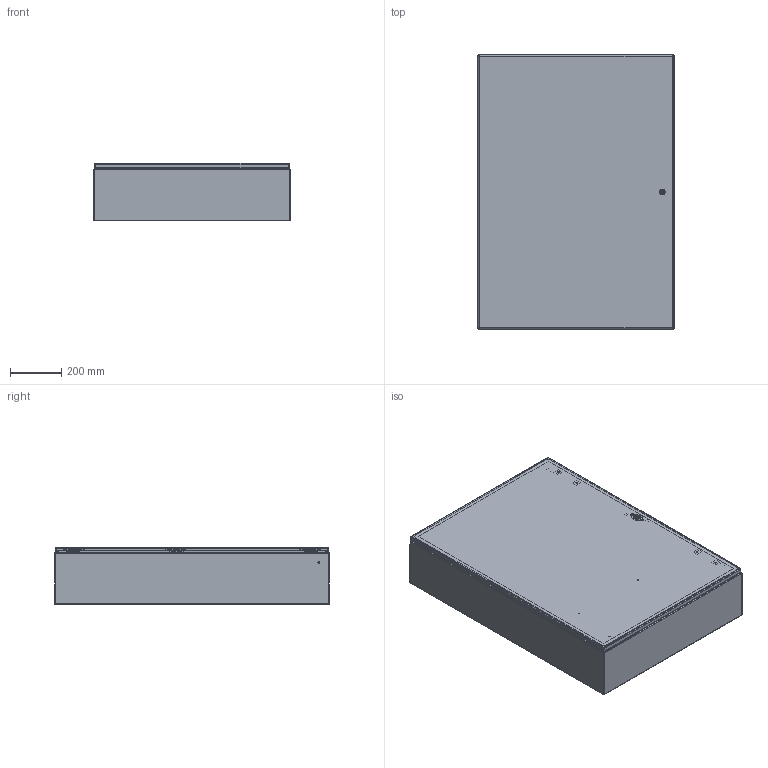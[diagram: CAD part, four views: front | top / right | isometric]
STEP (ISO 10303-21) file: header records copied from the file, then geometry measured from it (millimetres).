
FILE_DESCRIPTION (( 'STEP AP203' ), '1' );
FILE_NAME ('29423.step', '2015-03-30T06:26:49', ( '' ), ( '' ), 'SwSTEP 2.0', 'SolidWorks 2010', '' );
FILE_SCHEMA (( 'CONFIG_CONTROL_DESIGN' ));
Length unit declared in the file: inch
Products named in the file (32): 29423; 89117078; 89117077_default; 89117076_default; 89117075_default; 23271001_After Weld; 89117081_assy; 89117080_weldment; 89117079; 99401225; 87931362_87931362; 87408407_Unlocked; 64102001_Latch Open; 87540678; 64210001; 64202001; 64208001; 64205001; 87541995; 87541994_Installed Height; 64206004; 64207001; 64103001; 99411834; 89117082; 87543027; 89076399; 89076193; 89056623; 87929507; 87929767; 87929769_Installed on Pin
Assembly tree (51 placements, depth 5):
  29423
    87543027  x3
    89117078
      89117077_default
      23271001_After Weld  x6
      99401225
      89117075_default
      89117076_default
    89076399  x3
      89056623
      89076193
    87929507  x3
      87929769_Installed on Pin
      87929767
    89117081_assy
      87408407_Unlocked
        64206004  x2
        64102001_Latch Open
          64208001
          64210001
          64202001
          87540678
          87541994_Installed Height
          64205001  x2
          87541995
        64103001  x4
        64207001  x2
        99411834  x2
      89117082
      89117080_weldment
        89117079
        87931362_87931362  x2
        99401225
Bounding box: 762 x 1066.8 x 223.9 mm (x, y, z)
Volume: 4945489.8 mm3; surface area: 5285620.4 mm2
Topology: 49 solids, 49 shells, 3293 faces, 8568 edges, 5398 vertices
Faces by surface type: plane 1478, cylinder 903, bspline 626, torus 163, cone 87, sphere 36
Entity records: 72587 total; most frequent: CARTESIAN_POINT 25842, ORIENTED_EDGE 9372, DIRECTION 8208, EDGE_CURVE 4686, VERTEX_POINT 2963, AXIS2_PLACEMENT_3D 2769, VECTOR 2670, LINE 2670
